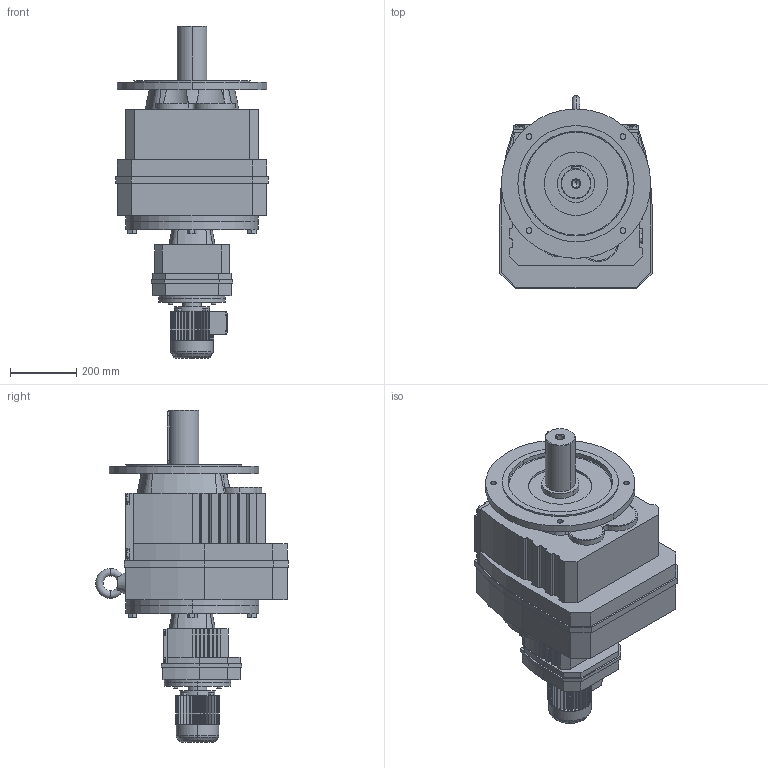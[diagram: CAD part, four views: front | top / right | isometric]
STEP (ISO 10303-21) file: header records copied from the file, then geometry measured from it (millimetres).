
FILE_DESCRIPTION(('Open CASCADE Model'),'2;1');
FILE_NAME('Open CASCADE Shape Model','2021-07-24T14:59:46',('Author'),( 'Open CASCADE'),'Open CASCADE STEP processor 6.3','Open CASCADE 6.3' ,'Unknown');
FILE_SCHEMA(('AUTOMOTIVE_DESIGN_CC2 { 1 2 10303 214 -1 1 5 4 }'));
Length unit declared in the file: millimetre
Products named in the file (4): 1_RF137R77DR63-450; RF37‵167_RF137R77_450.step; 萇儂_200-DR63-179-234-132-105.step; R_137_77.step
Assembly tree (3 placements, depth 2):
  1_RF137R77DR63-450
    RF37‵167_RF137R77_450.step
    萇儂_200-DR63-179-234-132-105.step
    R_137_77.step
Bounding box: 458 x 581 x 1000 mm (x, y, z)
Volume: 83956018.3 mm3; surface area: 2180288.6 mm2
Topology: 3 solids, 3 shells, 964 faces, 2559 edges, 1666 vertices
Faces by surface type: plane 702, cylinder 222, cone 28, torus 12
Entity records: 67190 total; most frequent: CARTESIAN_POINT 17808, DIRECTION 8697, ORIENTED_EDGE 5114, LINE 5114, VECTOR 5114, PCURVE 5114, DEFINITIONAL_REPRESENTATION 5114, EDGE_CURVE 2557
